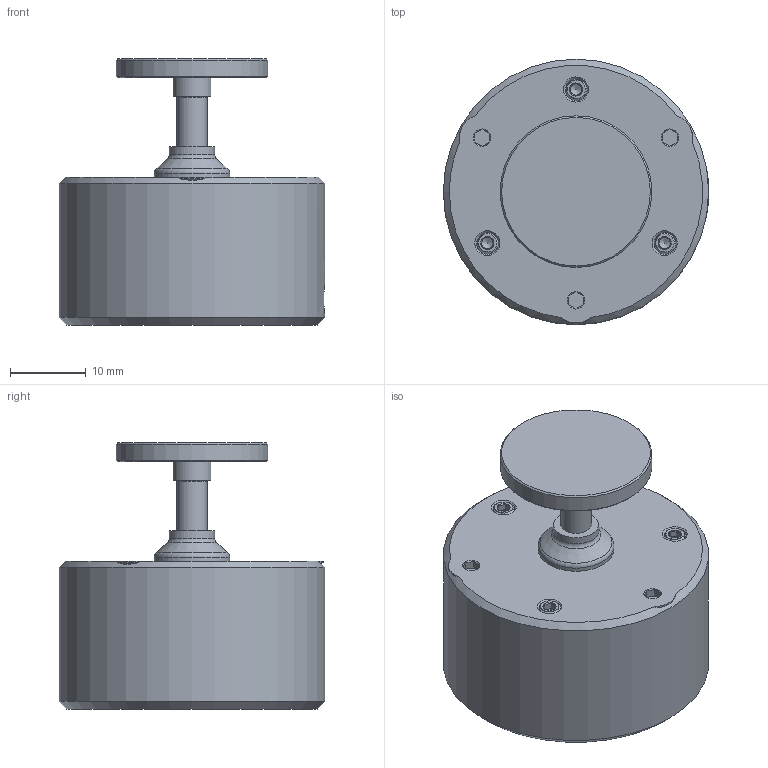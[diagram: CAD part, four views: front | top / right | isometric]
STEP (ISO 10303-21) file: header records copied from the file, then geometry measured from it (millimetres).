
FILE_DESCRIPTION(/* description */ (''),/* implementation_level */ '2;1');
FILE_NAME(/* name */ 'DIG3D.Fix.ALU.step',/* time_stamp */ '2025-08-14T18:41:06+02:00',/* author */ (''),/* organization */ (''),/* preprocessor_version */ 'ST-DEVELOPER v20.1',/* originating_system */ 'Autodesk Translation Framework v14.10.0.0',/* authorisation */ '');
FILE_SCHEMA (('AUTOMOTIVE_DESIGN { 1 0 10303 214 3 1 1 }'));
Length unit declared in the file: millimetre
Products named in the file (2): DIG3D.Fix.ALU - solid; Combined body
Assembly tree (1 placements, depth 2):
  DIG3D.Fix.ALU - solid
    Combined body
Bounding box: 35 x 35 x 35.1 mm (x, y, z)
Volume: 19157.8 mm3; surface area: 6276.9 mm2
Topology: 1 solids, 5 shells, 486 faces, 1342 edges, 858 vertices
Faces by surface type: cylinder 301, plane 95, cone 62, bspline 25, torus 3
Full cylindrical faces by diameter (mm): 2.075 x1, 2.35 x75, 2.43 x1, 2.5 x12, 2.529 x39, 3 x36, 3.086 x12, 3.2 x1, 4 x2, 5 x1, 5.95 x1, 6 x1, 7.4 x1, 10 x2, 20 x1, 35 x1
Entity records: 35536 total; most frequent: CARTESIAN_POINT 24758, ORIENTED_EDGE 2678, DIRECTION 1694, EDGE_CURVE 1339, VERTEX_POINT 858, AXIS2_PLACEMENT_3D 647, B_SPLINE_CURVE_WITH_KNOTS 531, EDGE_LOOP 505
